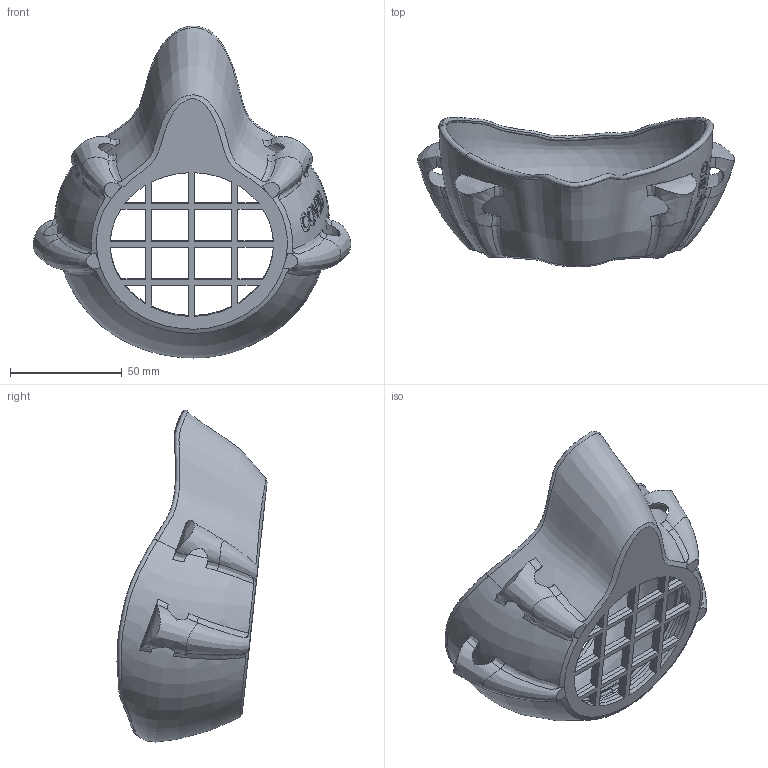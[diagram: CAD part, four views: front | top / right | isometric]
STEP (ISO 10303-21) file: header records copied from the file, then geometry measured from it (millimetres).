
FILE_DESCRIPTION(/* description */ (''),/* implementation_level */ '2;1');
FILE_NAME(/* name */ 'XL-WID~2',/* time_stamp */ '2020-04-10T21:52:12+03:00',/* author */ (''),/* organization */ (''),/* preprocessor_version */ 'ST-DEVELOPER v16.5',/* originating_system */ '',/* authorisation */ '');
FILE_SCHEMA (('AUTOMOTIVE_DESIGN'));
Length unit declared in the file: millimetre
Products named in the file (1): Document
Bounding box: 142 x 67.1 x 148.51 mm (x, y, z)
Volume: 74030.7 mm3; surface area: 56886.2 mm2
Topology: 1 solids, 1 shells, 312 faces, 797 edges, 489 vertices
Faces by surface type: bspline 209, plane 103
Entity records: 184217 total; most frequent: CARTESIAN_POINT 179229, ORIENTED_EDGE 1594, EDGE_CURVE 797, B_SPLINE_CURVE_WITH_KNOTS 625, VERTEX_POINT 489, EDGE_LOOP 354, ADVANCED_FACE 312, FACE_OUTER_BOUND 312
